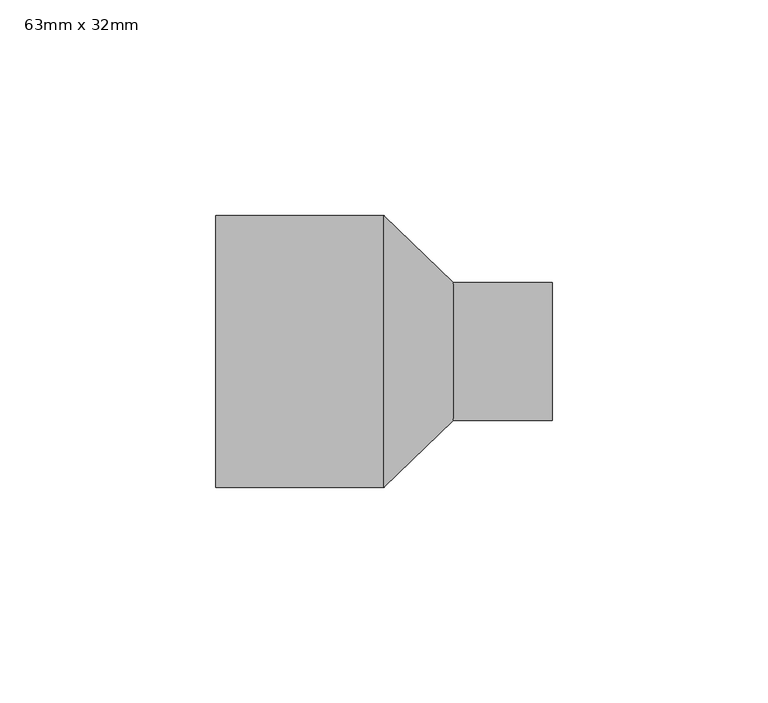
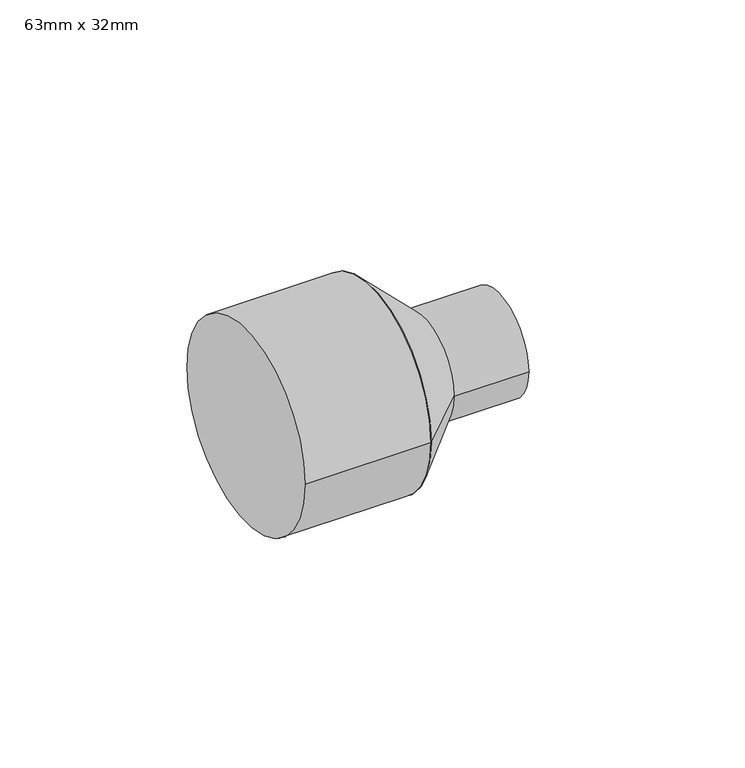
"""IFC4 building model written with IfcOpenShell, lengths in millimetres: pipe fitting geometry, PipeFitting_HTA_CPVC_ReducingBushesLongPattern : 63mm x 32mm."""

import ifcopenshell
import ifcopenshell.guid

model = None  # the IFC model being written
_history = None  # IfcOwnerHistory: only IFC2X3 demands one
_inside = {}  # id of a spatial element -> (the spatial element, [elements in it])
_under = {}  # id of a project, library or spatial element -> (it, [spatial elements below it])
_declared = {}  # id of a project -> (the project, [libraries it declares])
_typed = {}  # id of a type object -> (the type object, [elements of that type])
_made_of = {}  # id of a material, layer set ... -> (it, [elements and type objects made of it])


def new_model(schema):
    """Start an empty IFC model of exactly this schema.

    Asked for "IFC4X3", IfcOpenShell would pick the latest addendum, in which some entities
    have other attributes; the version numbers below select the first issue.
    IFC2X3 requires an IfcOwnerHistory on every rooted entity: one is made here for all.
    """
    global model, _history
    if schema == "IFC4X3":
        model = ifcopenshell.file(schema_version=(4, 3, 0, 0))
    else:
        model = ifcopenshell.file(schema=schema)
    _inside.clear()
    _under.clear()
    _declared.clear()
    _typed.clear()
    _made_of.clear()
    _history = None
    if model.schema == "IFC2X3":
        org = make("IfcOrganization", Name="unknown")
        user = make(
            "IfcPersonAndOrganization",
            ThePerson=make("IfcPerson", FamilyName="unknown"),
            TheOrganization=org,
        )
        app = make(
            "IfcApplication",
            ApplicationDeveloper=org,
            Version="unknown",
            ApplicationFullName="unknown",
            ApplicationIdentifier="unknown",
        )
        _history = make(
            "IfcOwnerHistory",
            OwningUser=user,
            OwningApplication=app,
            ChangeAction="ADDED",
            CreationDate=0,
        )
    return model


def make(cls, **values):
    """One entity of the class cls with the attributes given. An attribute that is None is left unset."""
    return model.create_entity(
        cls, **{name: value for name, value in values.items() if value is not None}
    )


def rooted(cls, **values):
    """An entity with a GlobalId (a new one), such as an element, a storey or a relation."""
    return make(cls, GlobalId=ifcopenshell.guid.new(), OwnerHistory=_history, **values)


def si_unit(unit_type, name, prefix=None):
    """IfcSIUnit, for example si_unit("LENGTHUNIT", "METRE", prefix="MILLI")."""
    return make("IfcSIUnit", UnitType=unit_type, Prefix=prefix, Name=name)


def assignment(units):
    """IfcUnitAssignment: the units of a project."""
    return None if units is None else make("IfcUnitAssignment", Units=units)


def point(xyz):
    """IfcCartesianPoint."""
    return None if xyz is None else make("IfcCartesianPoint", Coordinates=xyz)


def direction(xyz):
    """IfcDirection."""
    return None if xyz is None else make("IfcDirection", DirectionRatios=xyz)


def frame(location, z_axis=None, x_axis=None):
    """IfcAxis2Placement3D, a coordinate frame: its origin and axes. An axis left out is left unset."""
    return make(
        "IfcAxis2Placement3D",
        Location=point(location),
        Axis=direction(z_axis),
        RefDirection=direction(x_axis),
    )


def frame_2d(location, x_axis=None):
    """IfcAxis2Placement2D, a coordinate frame in the plane: its origin and x axis."""
    return make(
        "IfcAxis2Placement2D", Location=point(location), RefDirection=direction(x_axis)
    )


def origin():
    """The frame at (0, 0, 0) with its axes left unset."""
    return frame((0.0, 0.0, 0.0))


def origin_2d():
    """The frame at (0, 0) in the plane with its x axis left unset."""
    return frame_2d((0.0, 0.0))


def place(relative_to, where):
    """IfcLocalPlacement: puts the frame where relative to a parent placement (None: the world)."""
    return make(
        "IfcLocalPlacement", PlacementRelTo=relative_to, RelativePlacement=where
    )


def context(
    kind, dimensions, precision=None, world=None, true_north=None, identifier=None
):
    """IfcGeometricRepresentationContext, for example the 3D "Model" context."""
    return make(
        "IfcGeometricRepresentationContext",
        ContextIdentifier=identifier,
        ContextType=kind,
        CoordinateSpaceDimension=dimensions,
        Precision=precision,
        WorldCoordinateSystem=world,
        TrueNorth=true_north,
    )


def project(units=None, contexts=None):
    """IfcProject with its units and contexts."""
    return rooted(
        "IfcProject",
        Name="project",
        RepresentationContexts=contexts,
        UnitsInContext=assignment(units),
    )


def spatial(cls, under=None, at=None, **own):
    """A site, building, storey or space (cls), placed at a placement, below another one or the project."""
    s = rooted(cls, ObjectPlacement=at, **own)
    if under is not None:
        _under.setdefault(under.id(), (under, []))[1].append(s)
    return s


def polyline(points):
    """IfcPolyline through the points."""
    return make("IfcPolyline", Points=[point(p) for p in points])


def circle_curve(where, radius):
    """IfcCircle in the frame where."""
    return make("IfcCircle", Position=where, Radius=radius)


def trimmed(basis, trim1, trim2, sense, master):
    """IfcTrimmedCurve: the piece of a basis curve between two trims."""
    return make(
        "IfcTrimmedCurve",
        BasisCurve=basis,
        Trim1=trim1,
        Trim2=trim2,
        SenseAgreement=sense,
        MasterRepresentation=master,
    )


def segment(curve, same_sense, transition):
    """IfcCompositeCurveSegment."""
    return make(
        "IfcCompositeCurveSegment",
        Transition=transition,
        SameSense=same_sense,
        ParentCurve=curve,
    )


def composite_curve(segments, self_intersect=None):
    """IfcCompositeCurve: segments joined end to end."""
    return make("IfcCompositeCurve", Segments=segments, SelfIntersect=self_intersect)


def outline(outer, holes=None, kind="AREA"):
    """IfcArbitraryClosedProfileDef: a profile drawn as a closed curve; with holes, ...WithVoids."""
    if holes is None:
        return make("IfcArbitraryClosedProfileDef", ProfileType=kind, OuterCurve=outer)
    return make(
        "IfcArbitraryProfileDefWithVoids",
        ProfileType=kind,
        OuterCurve=outer,
        InnerCurves=holes,
    )


def extrude(swept, where, along, depth):
    """IfcExtrudedAreaSolid: the profile swept, set in the frame where, extruded along a direction by depth."""
    return make(
        "IfcExtrudedAreaSolid",
        SweptArea=swept,
        Position=where,
        ExtrudedDirection=direction(along),
        Depth=depth,
    )


def shape(context_of_items, identifier, shape_type, items):
    """IfcShapeRepresentation: the items that make up one representation, for example the "Body"."""
    return make(
        "IfcShapeRepresentation",
        ContextOfItems=context_of_items,
        RepresentationIdentifier=identifier,
        RepresentationType=shape_type,
        Items=items,
    )


def source(mapping_origin, context_of_items, identifier, shape_type, items):
    """IfcRepresentationMap: a shape defined once, which mapped items show again and again."""
    return make(
        "IfcRepresentationMap",
        MappingOrigin=mapping_origin,
        MappedRepresentation=shape(context_of_items, identifier, shape_type, items),
    )


def transform(
    local_origin,
    x_axis=None,
    y_axis=None,
    z_axis=None,
    scale=None,
    scale2=None,
    scale3=None,
    uniform=True,
):
    """IfcCartesianTransformationOperator3D, or its non-uniform kind. x_axis, y_axis, z_axis: its Axis1, 2, 3."""
    if uniform:
        return make(
            "IfcCartesianTransformationOperator3D",
            Axis1=direction(x_axis),
            Axis2=direction(y_axis),
            LocalOrigin=point(local_origin),
            Scale=scale,
            Axis3=direction(z_axis),
        )
    return make(
        "IfcCartesianTransformationOperator3DnonUniform",
        Axis1=direction(x_axis),
        Axis2=direction(y_axis),
        LocalOrigin=point(local_origin),
        Scale=scale,
        Axis3=direction(z_axis),
        Scale2=scale2,
        Scale3=scale3,
    )


def mapped(mapping_source, mapping_target):
    """IfcMappedItem: shows the shape of a source again, moved by a transform."""
    return make(
        "IfcMappedItem", MappingSource=mapping_source, MappingTarget=mapping_target
    )


def made_of(thing, what):
    """Note that an element or type object is made of a material, layer set ...; save() writes the relation."""
    if what is not None:
        _made_of.setdefault(what.id(), (what, []))[1].append(thing)
    return thing


def element(
    cls,
    number,
    at=None,
    inside=None,
    cuts=None,
    type_object=None,
    material=None,
    context=None,
    identifier="Body",
    shape_type=None,
    held_by="IfcProductDefinitionShape",
    body=None,
    shapes=None,
    **own,
):
    """One element of the class cls, such as IfcWall. Its Tag is "e" and its number.

    at: its placement. inside: the storey or other place that contains it. cuts: it is an
    opening in that element (IfcRelVoidsElement). A single representation is given by context,
    identifier, shape_type and body (its items); several are given by shapes. held_by: the class
    of the entity that holds the representations. save() writes the other relations.
    """
    e = rooted(cls, Tag="e%d" % number, ObjectPlacement=at, **own)
    if body is not None:
        shapes = [shape(context, identifier, shape_type, body)]
    if shapes is not None:
        e.Representation = make(held_by, Representations=shapes)
    if inside is not None:
        _inside.setdefault(inside.id(), (inside, []))[1].append(e)
    if cuts is not None:
        rooted(
            "IfcRelVoidsElement", RelatingBuildingElement=cuts, RelatedOpeningElement=e
        )
    if type_object is not None:
        _typed.setdefault(type_object.id(), (type_object, []))[1].append(e)
    return made_of(e, material)


def aggregate(whole, parts):
    """IfcRelAggregates: a whole, such as a stair, and the parts it consists of."""
    return rooted("IfcRelAggregates", RelatingObject=whole, RelatedObjects=parts)


def save(model, path):
    """Write the relations noted so far, then the file.

    IfcRelAggregates (storeys below a building ...), IfcRelContainedInSpatialStructure (elements
    in a storey), IfcRelDefinesByType, IfcRelAssociatesMaterial and IfcRelDeclares: one each for
    every whole, place, type object, material and project.
    """
    for whole, parts in _under.values():
        aggregate(whole, parts)
    for where, things in _inside.values():
        rooted(
            "IfcRelContainedInSpatialStructure",
            RelatedElements=things,
            RelatingStructure=where,
        )
    for kind, things in _typed.values():
        rooted("IfcRelDefinesByType", RelatedObjects=things, RelatingType=kind)
    for what, things in _made_of.values():
        rooted("IfcRelAssociatesMaterial", RelatedObjects=things, RelatingMaterial=what)
    for by, libraries in _declared.values():
        rooted("IfcRelDeclares", RelatingContext=by, RelatedDefinitions=libraries)
    model.write(path)


def plane_surface(at):
    """IfcPlane: the flat surface through the origin of the frame at, square to its z axis."""
    return make("IfcPlane", Position=at)


def revolved_surface(curve, axis_point, axis_direction):
    """IfcSurfaceOfRevolution: the curve turned about the line through axis_point along axis_direction."""
    return make(
        "IfcSurfaceOfRevolution",
        SweptCurve=make("IfcArbitraryOpenProfileDef", ProfileType="CURVE", Curve=curve),
        AxisPosition=make("IfcAxis1Placement", Location=point(axis_point), Axis=direction(axis_direction)),
    )


def advanced_brep(points, edges, surfaces, faces):
    """IfcAdvancedBrep: a solid bounded by faces that lie on surfaces and meet in shared edges.

    An edge is (start, end): straight between two places in points (the first is 0);
    or (start, end, curve); or (start, end, curve, False) where it runs against its curve.
    A face is (place in surfaces, loops), or (place, loops, False) where it looks against
    its surface's normal. A loop lists edges by number (the first is 1), with a minus sign
    where the edge is run from its end to its start. The first loop is the outer one.
    """
    corners = [point(p) for p in points]
    vertices = [make("IfcVertexPoint", VertexGeometry=c) for c in corners]
    made = []
    for start, end, *more in edges:
        made.append(
            make(
                "IfcEdgeCurve",
                EdgeStart=vertices[start],
                EdgeEnd=vertices[end],
                EdgeGeometry=more[0] if more else make("IfcPolyline", Points=[corners[start], corners[end]]),
                SameSense=more[1] if len(more) > 1 else True,
            )
        )
    hull = []
    for where, loops, *sense in faces:
        bounds = []
        for j, loop in enumerate(loops):
            ring = [make("IfcOrientedEdge", EdgeElement=made[abs(k) - 1], Orientation=k > 0) for k in loop]
            bounds.append(
                make(
                    "IfcFaceOuterBound" if j == 0 else "IfcFaceBound",
                    Bound=make("IfcEdgeLoop", EdgeList=ring),
                    Orientation=True,
                )
            )
        hull.append(make("IfcAdvancedFace", Bounds=bounds, FaceSurface=surfaces[where], SameSense=sense[0] if sense else True))
    return make("IfcAdvancedBrep", Outer=make("IfcClosedShell", CfsFaces=hull))


def pipe_fitting_63mm_x_32mm_1a53d994(model_context):
    return source(origin(), model_context, "Body", "SolidModel", [
        advanced_brep(
        [(55.0, -16.0, 0.0), (55.0, 16.0, 0.0), (39.0, -31.5, 0.0), (39.0, 31.5, 0.0)],
        [
            (0, 1, circle_curve(frame((55.0, 0.0, 0.0), z_axis=(1.0, 0.0, 0.0), x_axis=(0.0, -1.0, 0.0)), 16.0)),
            (1, 0, circle_curve(frame((55.0, 0.0, 0.0), z_axis=(1.0, 0.0, 0.0), x_axis=(0.0, 1.0, 0.0)), 16.0)),
            (2, 3, circle_curve(frame((39.0, 0.0, 0.0), z_axis=(-1.0, 0.0, 0.0), x_axis=(0.0, 1.0, 0.0)), 31.5)),
            (3, 2, circle_curve(frame((39.0, 0.0, 0.0), z_axis=(-1.0, 0.0, 0.0), x_axis=(0.0, -1.0, 0.0)), 31.5)),
            (3, 1),
            (0, 2),
        ],
        [
            plane_surface(frame((55.0, 0.0, 0.0), z_axis=(1.0, 0.0, 0.0), x_axis=(0.0, 0.0, -1.0))),
            plane_surface(frame((39.0, 0.0, 0.0), z_axis=(-1.0, 0.0, 0.0), x_axis=(0.0, 0.0, -1.0))),
            revolved_surface(polyline([(55.0, -15.99999998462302, 0.0), (39.0, -31.5, 0.0)]), (71.516129, 0.0, 0.0), (-1.0, 0.0, 0.0)),
            revolved_surface(polyline([(55.0, 15.99999998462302, 0.0), (39.0, 31.5, 0.0)]), (71.516129, 0.0, 0.0), (-1.0, 0.0, 0.0)),
        ],
        [
            (0, [[1, 2]]),
            (1, [[3, 4]]),
            (2, [[-4, 5, -1, 6]]),
            (3, [[-3, -6, -2, -5]]),
        ],
    ),
        extrude(outline(composite_curve([segment(trimmed(circle_curve(origin_2d(), 16.0), [point((-16.0, 0.0))], [point((16.0, 0.0))], False, "CARTESIAN"), True, "CONTINUOUS"), segment(trimmed(circle_curve(origin_2d(), 16.0), [point((16.0, 0.0))], [point((-16.0, 0.0))], False, "CARTESIAN"), True, "CONTINUOUS")], self_intersect=False)), frame((55.0, 0.0, 0.0), z_axis=(1.0, 0.0, 0.0), x_axis=(0.0, 1.0, 0.0)), (0.0, 0.0, 1.0), 23.0),
        extrude(outline(composite_curve([segment(trimmed(circle_curve(origin_2d(), 31.5), [point((-31.5, 0.0))], [point((31.5, 0.0))], False, "CARTESIAN"), True, "CONTINUOUS"), segment(trimmed(circle_curve(origin_2d(), 31.5), [point((31.5, 0.0))], [point((-31.5, 0.0))], False, "CARTESIAN"), True, "CONTINUOUS")], self_intersect=False)), frame((0.0, 0.0, 0.0), z_axis=(1.0, 0.0, 0.0), x_axis=(0.0, 1.0, 0.0)), (0.0, 0.0, 1.0), 39.0),
    ])


if __name__ == "__main__":
    model = new_model("IFC4")
    model_context = context("Model", 3, world=origin())
    ifc_project = project(units=[si_unit("LENGTHUNIT", "METRE", prefix="MILLI")], contexts=[model_context])
    site = spatial("IfcSite", under=ifc_project)
    building = spatial("IfcBuilding", under=site)
    placement = place(None, origin())
    pipe_fitting_63mm_x_32mm_shape = pipe_fitting_63mm_x_32mm_1a53d994(model_context)
    element("IfcPipeFitting", 1, ObjectType="PipeFitting_HTA_CPVC_ReducingBushesLongPattern : 63mm x 32mm", at=placement, inside=building, context=model_context, shape_type="MappedRepresentation", body=[
        mapped(pipe_fitting_63mm_x_32mm_shape, transform((0.0, 0.0, 0.0), x_axis=(1.0, 0.0, 0.0), y_axis=(0.0, 1.0, 0.0), z_axis=(0.0, 0.0, 1.0))),
    ])
    save(model, "model.ifc")
